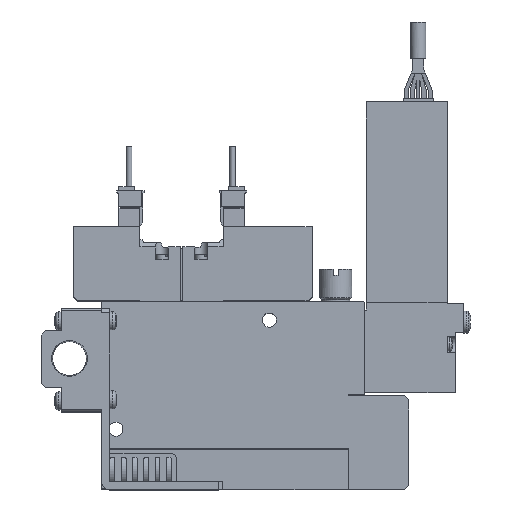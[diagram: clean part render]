
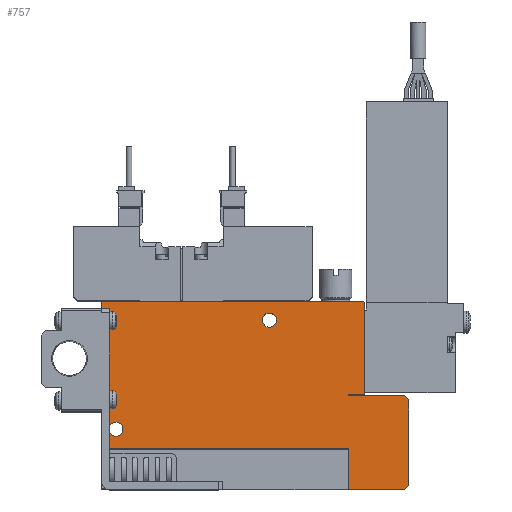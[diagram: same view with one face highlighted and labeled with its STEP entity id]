
A CAD part, top view. The second image highlights one B-rep face of the part: STEP entity #757.
In plain terms, the highlighted planar face has unit normal (0, 0, 1).
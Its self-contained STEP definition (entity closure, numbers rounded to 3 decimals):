
#757=ADVANCED_FACE('',(#1850,#1851,#1852),#1853,.F.);
#1850=FACE_OUTER_BOUND('',#3263,.T.);
#1851=FACE_BOUND('',#3264,.T.);
#1852=FACE_BOUND('',#3265,.T.);
#1853=PLANE('',#3266);
#3263=EDGE_LOOP('',(#7058,#7059,#7060,#7061,#7062,#7063,#7064,#7065,#7066,#7067,#7068,#7069,#7070,#7071));
#3264=EDGE_LOOP('',(#7072));
#3265=EDGE_LOOP('',(#7073));
#3266=AXIS2_PLACEMENT_3D('',#7074,#7075,#7076);
#7058=ORIENTED_EDGE('',*,*,#9938,.T.);
#7059=ORIENTED_EDGE('',*,*,#10108,.F.);
#7060=ORIENTED_EDGE('',*,*,#9949,.F.);
#7061=ORIENTED_EDGE('',*,*,#9943,.T.);
#7062=ORIENTED_EDGE('',*,*,#9992,.T.);
#7063=ORIENTED_EDGE('',*,*,#10109,.T.);
#7064=ORIENTED_EDGE('',*,*,#10110,.T.);
#7065=ORIENTED_EDGE('',*,*,#10111,.T.);
#7066=ORIENTED_EDGE('',*,*,#10055,.T.);
#7067=ORIENTED_EDGE('',*,*,#10027,.T.);
#7068=ORIENTED_EDGE('',*,*,#10112,.T.);
#7069=ORIENTED_EDGE('',*,*,#9960,.T.);
#7070=ORIENTED_EDGE('',*,*,#10113,.T.);
#7071=ORIENTED_EDGE('',*,*,#10114,.T.);
#7072=ORIENTED_EDGE('',*,*,#10115,.F.);
#7073=ORIENTED_EDGE('',*,*,#10116,.F.);
#7074=CARTESIAN_POINT('',(0.0,0.0,5.0));
#7075=DIRECTION('',(0.0,0.0,-1.0));
#7076=DIRECTION('',(0.0,-1.0,0.0));
#9938=EDGE_CURVE('',#12223,#12221,#12224,.T.);
#9943=EDGE_CURVE('',#12227,#12231,#12233,.T.);
#9949=EDGE_CURVE('',#12227,#12244,#12245,.T.);
#9960=EDGE_CURVE('',#12265,#12263,#12266,.T.);
#9992=EDGE_CURVE('',#12231,#12318,#12320,.T.);
#10027=EDGE_CURVE('',#12383,#12381,#12384,.T.);
#10055=EDGE_CURVE('',#12432,#12383,#12433,.T.);
#10108=EDGE_CURVE('',#12244,#12221,#12525,.T.);
#10109=EDGE_CURVE('',#12318,#12526,#12527,.T.);
#10110=EDGE_CURVE('',#12526,#12528,#12529,.T.);
#10111=EDGE_CURVE('',#12528,#12432,#12530,.T.);
#10112=EDGE_CURVE('',#12381,#12265,#12531,.T.);
#10113=EDGE_CURVE('',#12263,#12532,#12533,.T.);
#10114=EDGE_CURVE('',#12532,#12223,#12534,.T.);
#10115=EDGE_CURVE('',#12535,#12535,#12536,.T.);
#10116=EDGE_CURVE('',#12537,#12537,#12538,.T.);
#12221=VERTEX_POINT('',#15963);
#12223=VERTEX_POINT('',#15966);
#12224=LINE('',#15967,#15968);
#12227=VERTEX_POINT('',#15972);
#12231=VERTEX_POINT('',#15978);
#12233=LINE('',#15981,#15982);
#12244=VERTEX_POINT('',#15998);
#12245=LINE('',#15999,#16000);
#12263=VERTEX_POINT('',#16027);
#12265=VERTEX_POINT('',#16030);
#12266=LINE('',#16031,#16032);
#12318=VERTEX_POINT('',#16110);
#12320=LINE('',#16113,#16114);
#12381=VERTEX_POINT('',#16225);
#12383=VERTEX_POINT('',#16228);
#12384=LINE('',#16229,#16230);
#12432=VERTEX_POINT('',#16332);
#12433=LINE('',#16333,#16334);
#12525=LINE('',#16511,#16512);
#12526=VERTEX_POINT('',#16513);
#12527=LINE('',#16514,#16515);
#12528=VERTEX_POINT('',#16516);
#12529=LINE('',#16517,#16518);
#12530=LINE('',#16519,#16520);
#12531=LINE('',#16521,#16522);
#12532=VERTEX_POINT('',#16523);
#12533=LINE('',#16524,#16525);
#12534=LINE('',#16526,#16527);
#12535=VERTEX_POINT('',#16528);
#12536=CIRCLE('',#16529,1.75);
#12537=VERTEX_POINT('',#16530);
#12538=CIRCLE('',#16531,1.75);
#15963=CARTESIAN_POINT('',(0.0,10.1,5.0));
#15966=CARTESIAN_POINT('',(0.0,46.4,5.0));
#15967=CARTESIAN_POINT('',(0.0,46.4,5.0));
#15968=VECTOR('',#19484,1.0);
#15972=CARTESIAN_POINT('',(61.1,0.0,5.0));
#15978=CARTESIAN_POINT('',(75.0,0.0,5.0));
#15981=CARTESIAN_POINT('',(0.0,0.0,5.0));
#15982=VECTOR('',#19489,1.0);
#15998=CARTESIAN_POINT('',(61.1,10.1,5.0));
#15999=CARTESIAN_POINT('',(61.1,0.0,5.0));
#16000=VECTOR('',#19495,1.0);
#16027=CARTESIAN_POINT('',(64.8,46.6,5.0));
#16030=CARTESIAN_POINT('',(65.0,46.4,5.0));
#16031=CARTESIAN_POINT('',(65.0,46.4,5.0));
#16032=VECTOR('',#19506,1.0);
#16110=CARTESIAN_POINT('',(76.0,1.0,5.0));
#16113=CARTESIAN_POINT('',(75.0,0.0,5.0));
#16114=VECTOR('',#19546,1.0);
#16225=CARTESIAN_POINT('',(65.0,23.5,5.0));
#16228=CARTESIAN_POINT('',(61.0,23.5,5.0));
#16229=CARTESIAN_POINT('',(61.0,23.5,5.0));
#16230=VECTOR('',#19596,1.0);
#16332=CARTESIAN_POINT('',(61.0,23.25,5.0));
#16333=CARTESIAN_POINT('',(61.0,23.25,5.0));
#16334=VECTOR('',#19634,1.0);
#16511=CARTESIAN_POINT('',(61.1,10.1,5.0));
#16512=VECTOR('',#19700,1.0);
#16513=CARTESIAN_POINT('',(76.0,22.25,5.0));
#16514=CARTESIAN_POINT('',(76.0,1.0,5.0));
#16515=VECTOR('',#19701,1.0);
#16516=CARTESIAN_POINT('',(75.0,23.25,5.0));
#16517=CARTESIAN_POINT('',(76.0,22.25,5.0));
#16518=VECTOR('',#19702,1.0);
#16519=CARTESIAN_POINT('',(75.0,23.25,5.0));
#16520=VECTOR('',#19703,1.0);
#16521=CARTESIAN_POINT('',(65.0,23.5,5.0));
#16522=VECTOR('',#19704,1.0);
#16523=CARTESIAN_POINT('',(0.2,46.6,5.0));
#16524=CARTESIAN_POINT('',(64.8,46.6,5.0));
#16525=VECTOR('',#19705,1.0);
#16526=CARTESIAN_POINT('',(0.2,46.6,5.0));
#16527=VECTOR('',#19706,1.0);
#16528=CARTESIAN_POINT('',(5.25,15.0,5.0));
#16529=AXIS2_PLACEMENT_3D('',#19707,#19708,#19709);
#16530=CARTESIAN_POINT('',(43.25,42.0,5.0));
#16531=AXIS2_PLACEMENT_3D('',#19710,#19711,#19712);
#19484=DIRECTION('',(0.0,-1.0,0.0));
#19489=DIRECTION('',(1.0,0.0,0.0));
#19495=DIRECTION('',(0.0,1.0,0.0));
#19506=DIRECTION('',(-0.707,0.707,0.0));
#19546=DIRECTION('',(0.707,0.707,0.0));
#19596=DIRECTION('',(1.0,0.,0.0));
#19634=DIRECTION('',(0.0,1.0,0.0));
#19700=DIRECTION('',(-1.0,0.0,0.0));
#19701=DIRECTION('',(0.0,1.0,0.0));
#19702=DIRECTION('',(-0.707,0.707,0.0));
#19703=DIRECTION('',(-1.0,0.0,0.0));
#19704=DIRECTION('',(0.0,1.0,0.0));
#19705=DIRECTION('',(-1.0,0.0,0.0));
#19706=DIRECTION('',(-0.707,-0.707,0.0));
#19707=CARTESIAN_POINT('',(3.5,15.0,5.0));
#19708=DIRECTION('',(0.0,0.0,1.0));
#19709=DIRECTION('',(1.0,0.0,0.0));
#19710=CARTESIAN_POINT('',(41.5,42.0,5.0));
#19711=DIRECTION('',(0.0,0.0,1.0));
#19712=DIRECTION('',(1.0,0.0,0.0));
